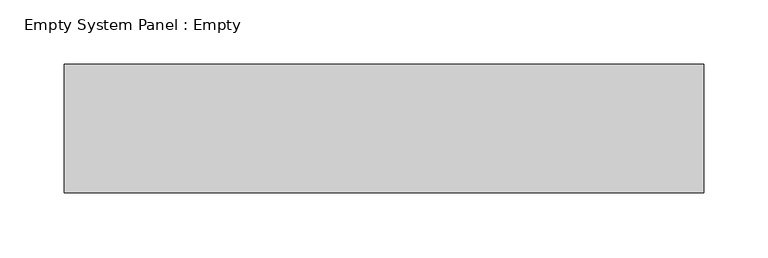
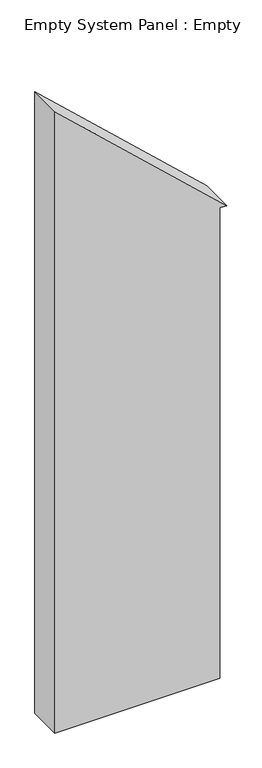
"""IFC4 building model written with IfcOpenShell, lengths in millimetres: plate geometry, Empty System Panel : Empty."""

from ifc_helpers import new_model, si_unit, frame, origin, place, context, project, spatial, polyline, outline, extrude, source, transform, mapped, element, save


def empty_system_panel_empty_946c3735(model_context):
    return source(origin(), model_context, "Body", "SweptSolid", [
        extrude(outline(polyline([(0.0, -248.680783), (0.0, 228.680783), (1439.0879417, 228.680783), (1439.0879417, 248.680783), (1900.2399865, -248.680783), (0.0, -248.680783)])), frame((0.0, -50.0, 0.0), z_axis=(0.0, 1.0, 0.0), x_axis=(0.0, 0.0, 1.0)), (0.0, 0.0, 1.0), 100.0),
    ])


if __name__ == "__main__":
    model = new_model("IFC4")
    model_context = context("Model", 3, world=origin())
    ifc_project = project(units=[si_unit("LENGTHUNIT", "METRE", prefix="MILLI")], contexts=[model_context])
    site = spatial("IfcSite", under=ifc_project)
    building = spatial("IfcBuilding", under=site)
    placement = place(None, origin())
    empty_system_panel_empty_shape = empty_system_panel_empty_946c3735(model_context)
    element("IfcPlate", 1, ObjectType="Empty System Panel : Empty", at=placement, inside=building, context=model_context, shape_type="MappedRepresentation", body=[
        mapped(empty_system_panel_empty_shape, transform((0.0, 0.0, 0.0), x_axis=(1.0, 0.0, 0.0), y_axis=(0.0, 1.0, 0.0), z_axis=(0.0, 0.0, 1.0))),
    ])
    save(model, "model.ifc")
